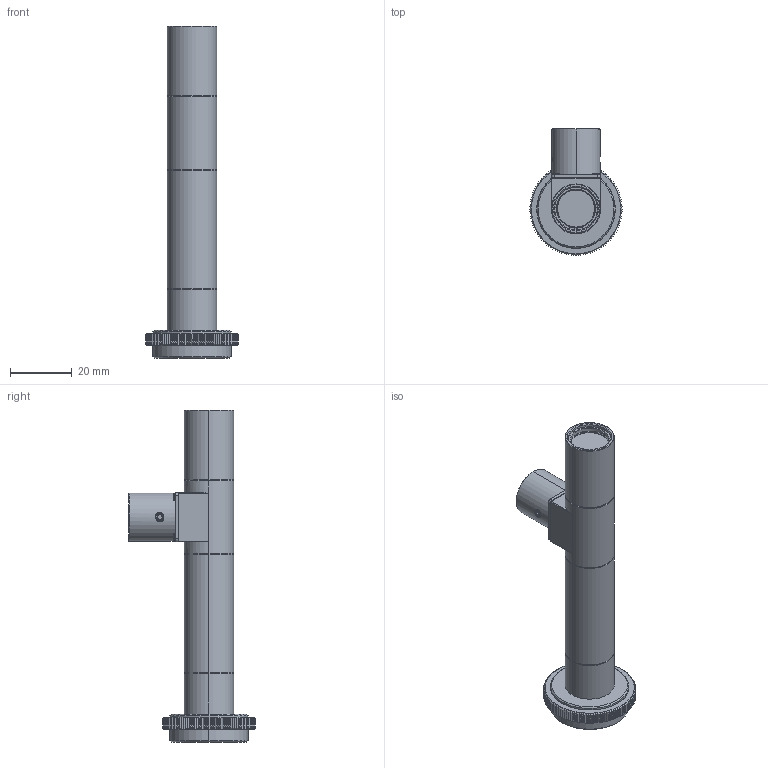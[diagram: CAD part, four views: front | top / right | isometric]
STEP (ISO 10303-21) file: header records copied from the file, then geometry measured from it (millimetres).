
FILE_DESCRIPTION (( 'STEP AP203' ), '1' );
FILE_NAME ('MML4-ST65D_A03444A0100101A-001.STEP', '2013-12-12T00:40:29', ( 'SCHOTT' ), ( 'SCHOTT' ), 'SwSTEP 2.0', 'SolidWorks 2011', '' );
FILE_SCHEMA (( 'CONFIG_CONTROL_DESIGN' ));
Length unit declared in the file: millimetre
Products named in the file (1): MML4-ST65D_A03444A0100101A-001
Bounding box: 30 x 41 x 107.81 mm (x, y, z)
Volume: 23185.3 mm3; surface area: 10269.7 mm2
Topology: 1 solids, 5 shells, 587 faces, 1539 edges, 970 vertices
Faces by surface type: plane 393, cone 108, cylinder 62, torus 16, sphere 8
Entity records: 18754 total; most frequent: CARTESIAN_POINT 5231, ORIENTED_EDGE 3062, DIRECTION 2475, EDGE_CURVE 1531, AXIS2_PLACEMENT_3D 986, VERTEX_POINT 970, EDGE_LOOP 613, B_SPLINE_CURVE_WITH_KNOTS 606
